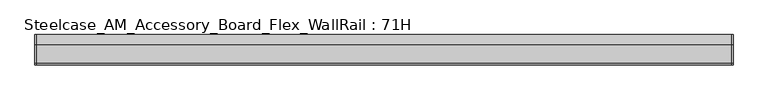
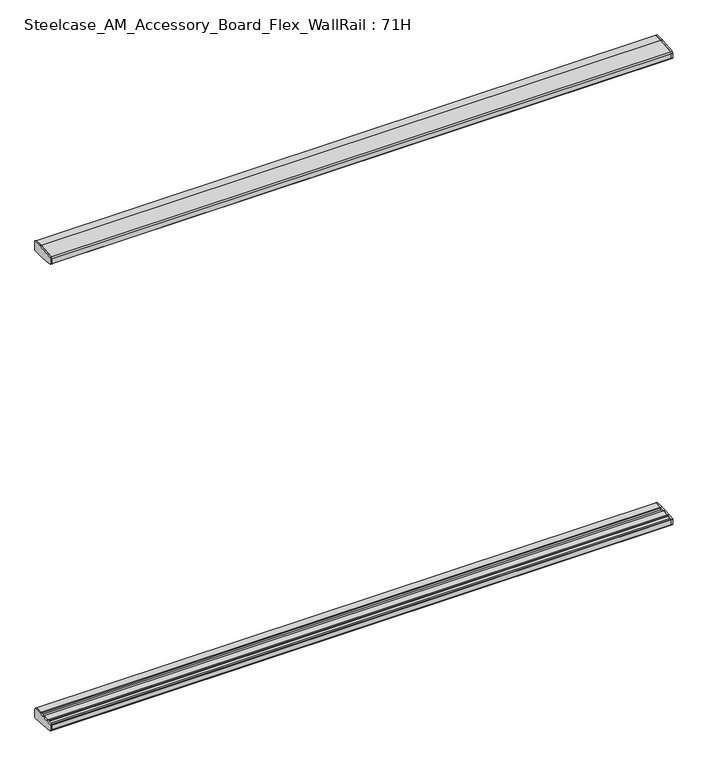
"""IFC4 building model written with IfcOpenShell, lengths in millimetres: furniture geometry, Steelcase_AM_Accessory_Board_Flex_WallRail : 71H."""

from ifc_helpers import new_model, si_unit, frame, origin, place, context, project, spatial, polyline, outline, extrude, source, transform, mapped, element, save


def steelcase_am_accessory_board_flex_wallrail_71h_eb4e8659(model_context):
    return source(origin(), model_context, "Body", "SweptSolid", [
        extrude(outline(polyline([(-29.748384, 311.8124036), (-2.0015978, 311.8124036), (0.0, 309.8107755), (0.0, 274.6124455), (-31.7483991, 274.6124455), (-95.5653908, 280.1038739), (-99.9999601, 284.9364269), (-99.9999601, 304.160545), (-98.0172056, 306.3145802), (-73.1435844, 308.3782149), (-50.3978144, 310.4594831), (-29.748384, 311.8124036)])), frame((2290.9857422, 0.0, 0.0), z_axis=(1.0, 0.0, 0.0), x_axis=(0.0, 1.0, 0.0)), (0.0, 0.0, 1.0), 4.9857422),
        extrude(outline(polyline([(-29.748384, 2096.400042), (-50.3978144, 2097.7529625), (-73.1435844, 2099.8342307), (-98.0172056, 2101.8978653), (-99.9999601, 2104.0519005), (-99.9999601, 2123.2760186), (-95.5653908, 2128.1085716), (-31.7483991, 2133.6), (0.0, 2133.6), (0.0, 2098.40167), (-2.0015978, 2096.400042), (-29.748384, 2096.400042)])), frame((2290.9857422, 0.0, 0.0), z_axis=(1.0, 0.0, 0.0), x_axis=(0.0, 1.0, 0.0)), (0.0, 0.0, 1.0), 4.9857422),
        extrude(outline(polyline([(-29.748384, 311.8124036), (-2.0015978, 311.8124036), (0.0, 309.8107755), (0.0, 274.6124455), (-31.7483991, 274.6124455), (-95.5653908, 280.1038739), (-99.9999601, 284.9364269), (-99.9999601, 304.160545), (-98.0172056, 306.3145802), (-73.1435844, 308.3782149), (-50.3978144, 310.4594831), (-29.748384, 311.8124036)])), frame((0.0, 0.0, 0.0), z_axis=(1.0, 0.0, 0.0), x_axis=(0.0, 1.0, 0.0)), (0.0, 0.0, 1.0), 4.9857422),
        extrude(outline(polyline([(-29.748384, 2096.400042), (-50.3978144, 2097.7529625), (-73.1435844, 2099.8342307), (-98.0172056, 2101.8978653), (-99.9999601, 2104.0519005), (-99.9999601, 2123.2760186), (-95.5653908, 2128.1085716), (-31.7483991, 2133.6), (0.0, 2133.6), (0.0, 2098.40167), (-2.0015978, 2096.400042), (-29.748384, 2096.400042)])), frame((0.0, 0.0, 0.0), z_axis=(1.0, 0.0, 0.0), x_axis=(0.0, 1.0, 0.0)), (0.0, 0.0, 1.0), 4.9857422),
        extrude(outline(polyline([(0.0, 309.8107755), (0.0, 274.6124455), (-31.7483991, 274.6124455), (-95.5653908, 280.1038739), (-99.9999606, 284.9364278), (-99.9999598, 304.160545), (-98.0172056, 306.3145802), (-93.9826847, 306.6493034), (-91.9999743, 304.8242642), (-91.9999735, 302.4062228), (-75.1383227, 302.4062228), (-75.1383233, 306.2110981), (-73.1435844, 308.3782149), (-50.3978144, 310.4594831), (-48.4030258, 308.4293275), (-48.4030258, 302.4062228), (-31.7499758, 302.4062228), (-31.7499758, 309.8107815), (-29.748384, 311.8124036), (-2.0015978, 311.8124036), (0.0, 309.8107755)])), frame((4.9857422, 0.0, 0.0), z_axis=(1.0, 0.0, 0.0), x_axis=(0.0, 1.0, 0.0)), (0.0, 0.0, 1.0), 2286.0),
        extrude(outline(polyline([(0.0, 2098.40167), (-2.0015978, 2096.400042), (-29.748384, 2096.400042), (-31.7499758, 2098.401664), (-31.7499758, 2105.8062228), (-48.4030258, 2105.8062228), (-48.4030258, 2099.783118), (-50.3978144, 2097.7529625), (-73.1435844, 2099.8342307), (-75.1383233, 2102.0013474), (-75.1383227, 2105.8062228), (-91.9999735, 2105.8062228), (-91.9999743, 2103.3881813), (-93.9826847, 2101.5631421), (-98.0172056, 2101.8978653), (-99.9999601, 2104.0519008), (-99.9999601, 2123.2760183), (-95.5653908, 2128.1085716), (-31.7483991, 2133.6), (0.0, 2133.6), (0.0, 2098.40167)])), frame((4.9857422, 0.0, 0.0), z_axis=(1.0, 0.0, 0.0), x_axis=(0.0, 1.0, 0.0)), (0.0, 0.0, 1.0), 2286.0),
    ])


if __name__ == "__main__":
    model = new_model("IFC4")
    model_context = context("Model", 3, world=origin())
    ifc_project = project(units=[si_unit("LENGTHUNIT", "METRE", prefix="MILLI")], contexts=[model_context])
    site = spatial("IfcSite", under=ifc_project)
    building = spatial("IfcBuilding", under=site)
    placement = place(None, origin())
    steelcase_am_accessory_board_flex_wallrail_71h_shape = steelcase_am_accessory_board_flex_wallrail_71h_eb4e8659(model_context)
    element("IfcFurniture", 1, ObjectType="Steelcase_AM_Accessory_Board_Flex_WallRail : 71H", at=placement, inside=building, context=model_context, shape_type="MappedRepresentation", body=[
        mapped(steelcase_am_accessory_board_flex_wallrail_71h_shape, transform((0.0, 0.0, 0.0), x_axis=(1.0, 0.0, 0.0), y_axis=(0.0, 1.0, 0.0), z_axis=(0.0, 0.0, 1.0))),
    ])
    save(model, "model.ifc")
